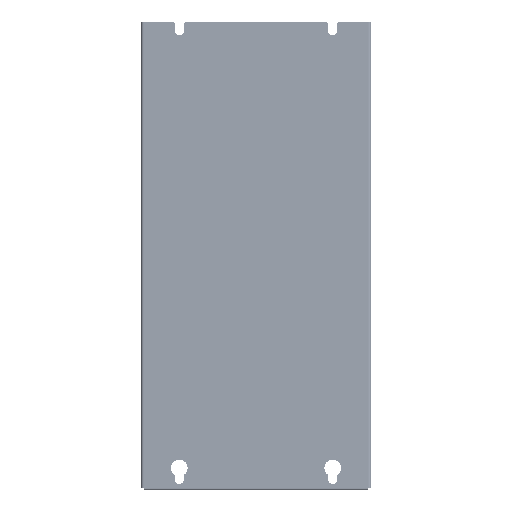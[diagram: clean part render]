
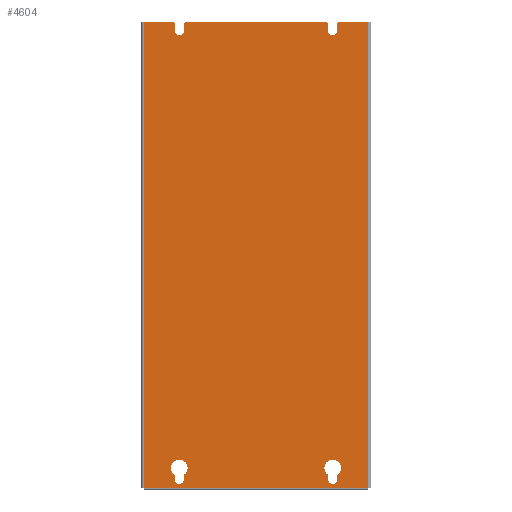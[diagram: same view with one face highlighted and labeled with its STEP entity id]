
A CAD part, front view. The second image highlights one B-rep face of the part: STEP entity #4604.
In plain terms, the highlighted planar face has unit normal (0, -1, 0).
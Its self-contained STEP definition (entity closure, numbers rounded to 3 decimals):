
#4604=ADVANCED_FACE('',(#73807,#73809,#73811),#73813,.T.);
#73807=FACE_BOUND('',#73808,.T.);
#73808=EDGE_LOOP('',(#173439,#173440,#173441,#173442,#173443,#173444,#173445,#173446,
#173447,#173448,#173449,#173450,#173451,#173452,#173453,#173454));
#73809=FACE_BOUND('',#73810,.T.);
#73810=EDGE_LOOP('',(#173455,#173456,#173457,#173458));
#73811=FACE_BOUND('',#73812,.T.);
#73812=EDGE_LOOP('',(#173459,#173460,#173461,#173462));
#73813=PLANE('',#73814);
#73814=AXIS2_PLACEMENT_3D('',#73815,#73816,#73817);
#73815=CARTESIAN_POINT('',(-90.,0.,-182.5));
#73816=DIRECTION('',(0.,-1.,0.));
#73817=DIRECTION('',(1.,0.,0.));
#173439=ORIENTED_EDGE('',*,*,#213840,.F.);
#173440=ORIENTED_EDGE('',*,*,#213841,.F.);
#173441=ORIENTED_EDGE('',*,*,#213842,.T.);
#173442=ORIENTED_EDGE('',*,*,#213628,.T.);
#173443=ORIENTED_EDGE('',*,*,#213843,.F.);
#173444=ORIENTED_EDGE('',*,*,#213844,.T.);
#173445=ORIENTED_EDGE('',*,*,#213845,.T.);
#173446=ORIENTED_EDGE('',*,*,#213846,.T.);
#173447=ORIENTED_EDGE('',*,*,#213847,.F.);
#173448=ORIENTED_EDGE('',*,*,#213848,.T.);
#173449=ORIENTED_EDGE('',*,*,#213849,.F.);
#173450=ORIENTED_EDGE('',*,*,#213850,.T.);
#173451=ORIENTED_EDGE('',*,*,#213851,.T.);
#173452=ORIENTED_EDGE('',*,*,#213852,.T.);
#173453=ORIENTED_EDGE('',*,*,#213853,.F.);
#173454=ORIENTED_EDGE('',*,*,#213854,.T.);
#173455=ORIENTED_EDGE('',*,*,#213855,.T.);
#173456=ORIENTED_EDGE('',*,*,#213856,.F.);
#173457=ORIENTED_EDGE('',*,*,#213857,.T.);
#173458=ORIENTED_EDGE('',*,*,#213839,.F.);
#173459=ORIENTED_EDGE('',*,*,#213858,.F.);
#173460=ORIENTED_EDGE('',*,*,#213859,.T.);
#173461=ORIENTED_EDGE('',*,*,#213860,.F.);
#173462=ORIENTED_EDGE('',*,*,#213861,.T.);
#213628=EDGE_CURVE('',#233774,#233771,#233775,.T.);
#213839=EDGE_CURVE('',#234179,#234177,#234181,.T.);
#213840=EDGE_CURVE('',#234182,#234183,#234184,.T.);
#213841=EDGE_CURVE('',#234185,#234182,#234186,.T.);
#213842=EDGE_CURVE('',#234185,#233774,#234187,.T.);
#213843=EDGE_CURVE('',#234188,#233771,#234189,.T.);
#213844=EDGE_CURVE('',#234188,#234190,#234191,.T.);
#213845=EDGE_CURVE('',#234190,#234192,#234193,.T.);
#213846=EDGE_CURVE('',#234192,#234194,#234195,.T.);
#213847=EDGE_CURVE('',#234196,#234194,#234197,.T.);
#213848=EDGE_CURVE('',#234196,#234198,#234199,.T.);
#213849=EDGE_CURVE('',#234200,#234198,#234201,.T.);
#213850=EDGE_CURVE('',#234200,#234202,#234203,.T.);
#213851=EDGE_CURVE('',#234202,#234204,#234205,.T.);
#213852=EDGE_CURVE('',#234204,#234206,#234207,.T.);
#213853=EDGE_CURVE('',#234208,#234206,#234209,.T.);
#213854=EDGE_CURVE('',#234208,#234183,#234210,.T.);
#213855=EDGE_CURVE('',#234179,#234211,#234212,.T.);
#213856=EDGE_CURVE('',#234213,#234211,#234214,.T.);
#213857=EDGE_CURVE('',#234213,#234177,#234215,.T.);
#213858=EDGE_CURVE('',#234216,#234217,#234218,.T.);
#213859=EDGE_CURVE('',#234216,#234219,#234220,.T.);
#213860=EDGE_CURVE('',#234221,#234219,#234222,.T.);
#213861=EDGE_CURVE('',#234221,#234217,#234223,.T.);
#233771=VERTEX_POINT('',#266987);
#233774=VERTEX_POINT('',#266995);
#233775=LINE('',#266996,#266997);
#234177=VERTEX_POINT('',#267828);
#234179=VERTEX_POINT('',#267832);
#234181=LINE('',#267836,#267837);
#234182=VERTEX_POINT('',#267839);
#234183=VERTEX_POINT('',#267840);
#234184=LINE('',#267841,#267842);
#234185=VERTEX_POINT('',#267844);
#234186=LINE('',#267845,#267846);
#234187=LINE('',#267848,#267849);
#234188=VERTEX_POINT('',#267851);
#234189=LINE('',#267852,#267853);
#234190=VERTEX_POINT('',#267855);
#234191=LINE('',#267856,#267857);
#234192=VERTEX_POINT('',#267859);
#234193=LINE('',#267860,#267861);
#234194=VERTEX_POINT('',#267863);
#234195=CIRCLE('',#267864,3.5);
#234196=VERTEX_POINT('',#267868);
#234197=LINE('',#267869,#267870);
#234198=VERTEX_POINT('',#267872);
#234199=LINE('',#267873,#267874);
#234200=VERTEX_POINT('',#267876);
#234201=LINE('',#267877,#267878);
#234202=VERTEX_POINT('',#267880);
#234203=LINE('',#267881,#267882);
#234204=VERTEX_POINT('',#267884);
#234205=LINE('',#267885,#267886);
#234206=VERTEX_POINT('',#267888);
#234207=CIRCLE('',#267889,3.5);
#234208=VERTEX_POINT('',#267893);
#234209=LINE('',#267894,#267895);
#234210=LINE('',#267897,#267898);
#234211=VERTEX_POINT('',#267900);
#234212=CIRCLE('',#267901,3.5);
#234213=VERTEX_POINT('',#267905);
#234214=LINE('',#267906,#267907);
#234215=CIRCLE('',#267909,6.5);
#234216=VERTEX_POINT('',#267913);
#234217=VERTEX_POINT('',#267914);
#234218=LINE('',#267915,#267916);
#234219=VERTEX_POINT('',#267918);
#234220=CIRCLE('',#267919,6.5);
#234221=VERTEX_POINT('',#267923);
#234222=LINE('',#267924,#267925);
#234223=CIRCLE('',#267927,3.5);
#266987=CARTESIAN_POINT('',(87.8,0.,182.5));
#266995=CARTESIAN_POINT('',(87.8,0.,-182.5));
#266996=CARTESIAN_POINT('',(87.8,0.,-182.5));
#266997=VECTOR('',#266998,1.);
#266998=DIRECTION('',(0.,0.,1.));
#267828=CARTESIAN_POINT('',(63.5,0.,-171.977));
#267832=CARTESIAN_POINT('',(63.5,0.,-175.5));
#267836=CARTESIAN_POINT('',(63.5,0.,-175.5));
#267837=VECTOR('',#267838,1.);
#267838=DIRECTION('',(0.,0.,1.));
#267839=CARTESIAN_POINT('',(-87.8,0.,182.5));
#267840=CARTESIAN_POINT('',(-64.5,0.,182.5));
#267841=CARTESIAN_POINT('',(-87.8,0.,182.5));
#267842=VECTOR('',#267843,1.);
#267843=DIRECTION('',(1.,0.,0.));
#267844=CARTESIAN_POINT('',(-87.8,0.,-182.5));
#267845=CARTESIAN_POINT('',(-87.8,0.,-182.5));
#267846=VECTOR('',#267847,1.);
#267847=DIRECTION('',(0.,0.,1.));
#267848=CARTESIAN_POINT('',(-87.8,0.,-182.5));
#267849=VECTOR('',#267850,1.);
#267850=DIRECTION('',(1.,0.,0.));
#267851=CARTESIAN_POINT('',(64.5,0.,182.5));
#267852=CARTESIAN_POINT('',(64.5,0.,182.5));
#267853=VECTOR('',#267854,1.);
#267854=DIRECTION('',(1.,0.,0.));
#267855=CARTESIAN_POINT('',(63.5,0.,181.5));
#267856=CARTESIAN_POINT('',(64.5,0.,182.5));
#267857=VECTOR('',#267858,1.);
#267858=DIRECTION('',(-0.707,0.,-0.707));
#267859=CARTESIAN_POINT('',(63.5,0.,175.5));
#267860=CARTESIAN_POINT('',(63.5,0.,181.5));
#267861=VECTOR('',#267862,1.);
#267862=DIRECTION('',(0.,0.,-1.));
#267863=CARTESIAN_POINT('',(56.5,0.,175.5));
#267864=AXIS2_PLACEMENT_3D('',#267865,#267866,#267867);
#267865=CARTESIAN_POINT('',(60.,0.,175.5));
#267866=DIRECTION('',(0.,1.,0.));
#267867=DIRECTION('',(1.,0.,0.));
#267868=CARTESIAN_POINT('',(56.5,0.,181.5));
#267869=CARTESIAN_POINT('',(56.5,0.,181.5));
#267870=VECTOR('',#267871,1.);
#267871=DIRECTION('',(0.,0.,-1.));
#267872=CARTESIAN_POINT('',(55.5,0.,182.5));
#267873=CARTESIAN_POINT('',(56.5,0.,181.5));
#267874=VECTOR('',#267875,1.);
#267875=DIRECTION('',(-0.707,0.,0.707));
#267876=CARTESIAN_POINT('',(-55.5,0.,182.5));
#267877=CARTESIAN_POINT('',(-55.5,0.,182.5));
#267878=VECTOR('',#267879,1.);
#267879=DIRECTION('',(1.,0.,0.));
#267880=CARTESIAN_POINT('',(-56.5,0.,181.5));
#267881=CARTESIAN_POINT('',(-55.5,0.,182.5));
#267882=VECTOR('',#267883,1.);
#267883=DIRECTION('',(-0.707,0.,-0.707));
#267884=CARTESIAN_POINT('',(-56.5,0.,175.5));
#267885=CARTESIAN_POINT('',(-56.5,0.,181.5));
#267886=VECTOR('',#267887,1.);
#267887=DIRECTION('',(0.,0.,-1.));
#267888=CARTESIAN_POINT('',(-63.5,0.,175.5));
#267889=AXIS2_PLACEMENT_3D('',#267890,#267891,#267892);
#267890=CARTESIAN_POINT('',(-60.,0.,175.5));
#267891=DIRECTION('',(0.,1.,0.));
#267892=DIRECTION('',(1.,0.,0.));
#267893=CARTESIAN_POINT('',(-63.5,0.,181.5));
#267894=CARTESIAN_POINT('',(-63.5,0.,181.5));
#267895=VECTOR('',#267896,1.);
#267896=DIRECTION('',(0.,0.,-1.));
#267897=CARTESIAN_POINT('',(-63.5,0.,181.5));
#267898=VECTOR('',#267899,1.);
#267899=DIRECTION('',(-0.707,0.,0.707));
#267900=CARTESIAN_POINT('',(56.5,0.,-175.5));
#267901=AXIS2_PLACEMENT_3D('',#267902,#267903,#267904);
#267902=CARTESIAN_POINT('',(60.,0.,-175.5));
#267903=DIRECTION('',(0.,1.,0.));
#267904=DIRECTION('',(1.,0.,0.));
#267905=CARTESIAN_POINT('',(56.5,0.,-171.977));
#267906=CARTESIAN_POINT('',(56.5,0.,-171.977));
#267907=VECTOR('',#267908,1.);
#267908=DIRECTION('',(0.,0.,-1.));
#267909=AXIS2_PLACEMENT_3D('',#267910,#267911,#267912);
#267910=CARTESIAN_POINT('',(60.,0.,-166.5));
#267911=DIRECTION('',(0.,1.,0.));
#267912=DIRECTION('',(-0.538,0.,-0.843));
#267913=CARTESIAN_POINT('',(-63.5,0.,-171.977));
#267914=CARTESIAN_POINT('',(-63.5,0.,-175.5));
#267915=CARTESIAN_POINT('',(-63.5,0.,-171.977));
#267916=VECTOR('',#267917,1.);
#267917=DIRECTION('',(0.,0.,-1.));
#267918=CARTESIAN_POINT('',(-56.5,0.,-171.977));
#267919=AXIS2_PLACEMENT_3D('',#267920,#267921,#267922);
#267920=CARTESIAN_POINT('',(-60.,0.,-166.5));
#267921=DIRECTION('',(0.,1.,0.));
#267922=DIRECTION('',(-0.538,0.,-0.843));
#267923=CARTESIAN_POINT('',(-56.5,0.,-175.5));
#267924=CARTESIAN_POINT('',(-56.5,0.,-175.5));
#267925=VECTOR('',#267926,1.);
#267926=DIRECTION('',(0.,0.,1.));
#267927=AXIS2_PLACEMENT_3D('',#267928,#267929,#267930);
#267928=CARTESIAN_POINT('',(-60.,0.,-175.5));
#267929=DIRECTION('',(0.,1.,0.));
#267930=DIRECTION('',(1.,0.,0.));
